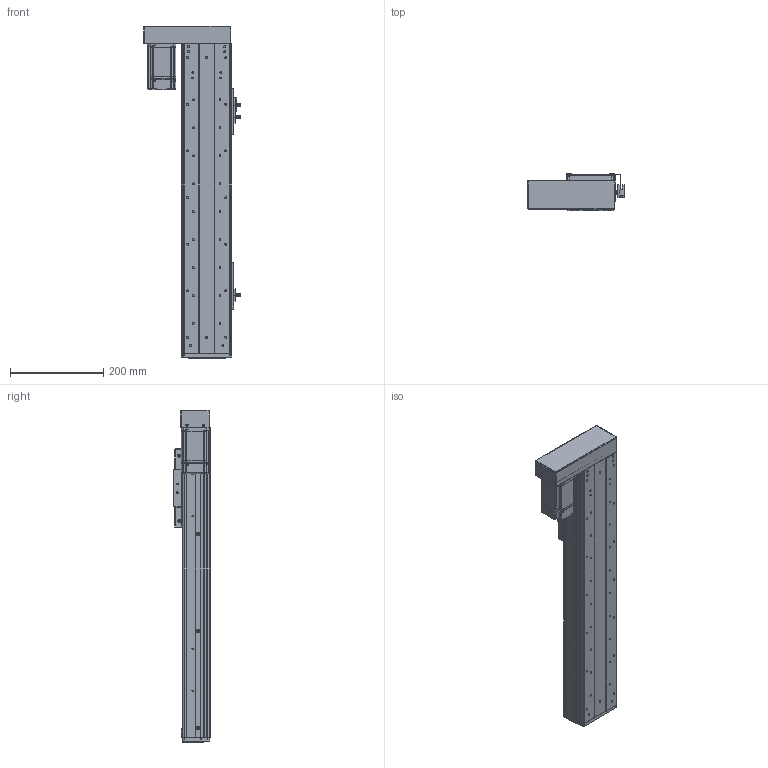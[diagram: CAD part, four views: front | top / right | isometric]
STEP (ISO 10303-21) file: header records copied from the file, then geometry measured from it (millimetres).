
FILE_DESCRIPTION (( 'STEP AP203' ), '1' );
FILE_NAME ('RY100FS-L1620-300-LK(15双轨).SLDASM_400.step', '2021-03-02T07:40:10', ( '盈信电脑' ), ( '东莞市道滘镇水果街19号' ), 'SwSTEP 2.0', 'SolidWorks 2012', '' );
FILE_SCHEMA (( 'CONFIG_CONTROL_DESIGN' ));
Length unit declared in the file: millimetre
Products named in the file (21): 蚥薯蝶紫輸; RY100FS-15邧寢蛌殏萇儂欶; RY100FS-L1620-300-LK(15邧寢).SLDASM_400; RY100FS-15邧寢蛌殏萇儂啣; RY100FS-15邧寢蛌殏萇儂釱; 滅袉蝶14-35; 1; RY80俋离覜茼え; RY100FS-双轨螺母座(16丝杆）; 覜茼ん672; RY100F-詩湍揤踡輸; RY100F-綴裔啣; RY100F-詩湍揤踡謫; 672嫖萇羲壽假蚾釱; RY100FS-双轨铝滑块(上板）; 棠沺沭; RY100F-詩湍幗謫粣; RY100F-滅鳥裔啣; RY100FS-300-LK15絳寢倰第菁釱_400; RY100FS-300-LK15邧寢祥凄詩湍_400; RY100FS-300-LK15絳寢倰第奻裔啣_400
Assembly tree (29 placements, depth 2):
  RY100FS-L1620-300-LK(15邧寢).SLDASM_400
    RY100FS-300-LK15絳寢倰第菁釱_400
    RY100FS-300-LK15絳寢倰第奻裔啣_400  x2
    RY100FS-300-LK15邧寢祥凄詩湍_400
    RY100FS-双轨铝滑块(上板）
    RY100F-滅鳥裔啣
    棠沺沭  x2
    RY100F-詩湍幗謫粣
    RY100F-詩湍揤踡謫  x2
    RY100F-綴裔啣
    672嫖萇羲壽假蚾釱  x2
    RY80俋离覜茼え  x2
    覜茼ん672  x3
    RY100F-詩湍揤踡輸  x2
    RY100FS-双轨螺母座(16丝杆）
    RY100FS-15邧寢蛌殏萇儂釱
    滅袉蝶14-35
    1
    RY100FS-15邧寢蛌殏萇儂啣
    RY100FS-15邧寢蛌殏萇儂欶
    蚥薯蝶紫輸  x2
Bounding box: 207.3 x 78.5 x 712 mm (x, y, z)
Volume: 1988923.3 mm3; surface area: 826889 mm2
Topology: 29 solids, 29 shells, 2196 faces, 5929 edges, 3824 vertices
Faces by surface type: plane 1021, cylinder 974, cone 168, bspline 33
Entity records: 62180 total; most frequent: CARTESIAN_POINT 12793, DIRECTION 9876, ORIENTED_EDGE 9666, EDGE_CURVE 4833, AXIS2_PLACEMENT_3D 3490, VERTEX_POINT 3172, VECTOR 2896, LINE 2896
